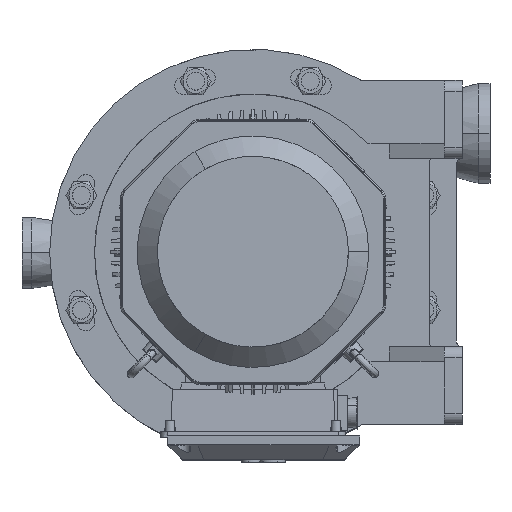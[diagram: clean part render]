
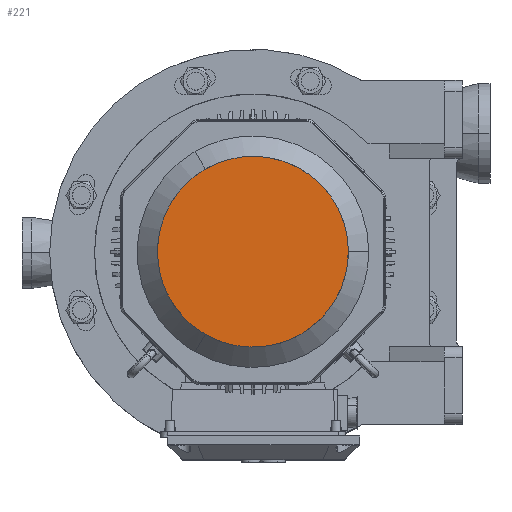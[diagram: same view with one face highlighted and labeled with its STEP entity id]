
A CAD part, top view. The second image highlights one B-rep face of the part: STEP entity #221.
In plain terms, the highlighted planar face has unit normal (0, 0, 1).
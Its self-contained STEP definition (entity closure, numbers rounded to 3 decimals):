
#136=CARTESIAN_POINT('',(-140.373,-138.844,831.254));
#137=DIRECTION('',(0.0,0.0,1.0));
#138=DIRECTION('',(-1.0,0.0,0.0));
#139=AXIS2_PLACEMENT_3D('',#136,#137,#138);
#140=PLANE('',#139);
#141=CARTESIAN_POINT('',(-63.855,110.444,831.254));
#142=VERTEX_POINT('',#141);
#143=CARTESIAN_POINT('',(127.44,0.,831.254));
#144=VERTEX_POINT('',#143);
#145=CARTESIAN_POINT('',(-63.855,110.444,831.254));
#146=CARTESIAN_POINT('',(-57.081,114.355,831.254));
#147=CARTESIAN_POINT('',(-49.767,117.886,831.254));
#148=CARTESIAN_POINT('',(-41.935,120.924,831.254));
#149=CARTESIAN_POINT('',(-24.653,125.986,831.254));
#150=CARTESIAN_POINT('',(-5.811,127.98,831.254));
#151=CARTESIAN_POINT('',(4.284,128.065,831.254));
#152=CARTESIAN_POINT('',(29.077,125.754,831.254));
#153=CARTESIAN_POINT('',(53.38,117.261,831.254));
#154=CARTESIAN_POINT('',(66.914,110.098,831.254));
#155=CARTESIAN_POINT('',(88.002,94.459,831.254));
#156=CARTESIAN_POINT('',(104.137,74.649,831.254));
#157=CARTESIAN_POINT('',(109.926,65.756,831.254));
#158=CARTESIAN_POINT('',(119.051,48.008,831.254));
#159=CARTESIAN_POINT('',(124.409,29.774,831.254));
#160=CARTESIAN_POINT('',(126.136,21.065,831.254));
#161=CARTESIAN_POINT('',(127.191,11.645,831.254));
#162=CARTESIAN_POINT('',(127.419,2.557,831.254));
#163=CARTESIAN_POINT('',(127.433,1.701,831.254));
#164=CARTESIAN_POINT('',(127.44,0.849,831.254));
#165=CARTESIAN_POINT('',(127.44,0.,831.254));
#166=B_SPLINE_CURVE_WITH_KNOTS('',5,(#145,#146,#147,#148,#149,#150,#151,#152,#153,#154,#155,#156,#157,#158,#159,#160,#161,#162,#163,#164,#165),.UNSPECIFIED.,.F.,.U.,(6,3,3,3,3,3,6),(0.0,87.455,182.3,317.715,416.191,507.181,516.673),.UNSPECIFIED.);
#167=EDGE_CURVE('',#142,#144,#166,.T.);
#168=ORIENTED_EDGE('',*,*,#167,.F.);
#169=CARTESIAN_POINT('',(-63.855,-110.444,831.254));
#170=VERTEX_POINT('',#169);
#171=CARTESIAN_POINT('',(-63.855,-110.444,831.254));
#172=CARTESIAN_POINT('',(-70.629,-106.533,831.254));
#173=CARTESIAN_POINT('',(-77.343,-101.964,831.254));
#174=CARTESIAN_POINT('',(-83.89,-96.701,831.254));
#175=CARTESIAN_POINT('',(-96.915,-84.265,831.254));
#176=CARTESIAN_POINT('',(-108.063,-68.945,831.254));
#177=CARTESIAN_POINT('',(-113.185,-60.244,831.254));
#178=CARTESIAN_POINT('',(-123.579,-37.618,831.254));
#179=CARTESIAN_POINT('',(-128.376,-12.324,831.254));
#180=CARTESIAN_POINT('',(-128.939,2.978,831.254));
#181=CARTESIAN_POINT('',(-125.939,29.06,831.254));
#182=CARTESIAN_POINT('',(-116.851,52.939,831.254));
#183=CARTESIAN_POINT('',(-112.044,62.398,831.254));
#184=CARTESIAN_POINT('',(-101.236,79.175,831.254));
#185=CARTESIAN_POINT('',(-88.124,92.932,831.254));
#186=CARTESIAN_POINT('',(-81.445,98.782,831.254));
#187=CARTESIAN_POINT('',(-73.815,104.406,831.254));
#188=CARTESIAN_POINT('',(-66.058,109.147,831.254));
#189=CARTESIAN_POINT('',(-65.325,109.588,831.254));
#190=CARTESIAN_POINT('',(-64.59,110.02,831.254));
#191=CARTESIAN_POINT('',(-63.855,110.444,831.254));
#192=B_SPLINE_CURVE_WITH_KNOTS('',5,(#171,#172,#173,#174,#175,#176,#177,#178,#179,#180,#181,#182,#183,#184,#185,#186,#187,#188,#189,#190,#191),.UNSPECIFIED.,.F.,.U.,(6,3,3,3,3,3,6),(0.0,87.455,182.3,317.715,416.191,507.181,516.673),.UNSPECIFIED.);
#193=EDGE_CURVE('',#170,#142,#192,.T.);
#194=ORIENTED_EDGE('',*,*,#193,.F.);
#195=CARTESIAN_POINT('',(127.44,0.,831.254));
#196=CARTESIAN_POINT('',(127.44,-7.822,831.254));
#197=CARTESIAN_POINT('',(126.84,-15.921,831.254));
#198=CARTESIAN_POINT('',(125.556,-24.223,831.254));
#199=CARTESIAN_POINT('',(121.299,-41.721,831.254));
#200=CARTESIAN_POINT('',(113.605,-59.035,831.254));
#201=CARTESIAN_POINT('',(108.631,-67.821,831.254));
#202=CARTESIAN_POINT('',(94.233,-88.136,831.254));
#203=CARTESIAN_POINT('',(74.726,-104.937,831.254));
#204=CARTESIAN_POINT('',(61.756,-113.076,831.254));
#205=CARTESIAN_POINT('',(37.668,-123.519,831.254));
#206=CARTESIAN_POINT('',(12.445,-127.588,831.254));
#207=CARTESIAN_POINT('',(1.849,-128.155,831.254));
#208=CARTESIAN_POINT('',(-18.084,-127.183,831.254));
#209=CARTESIAN_POINT('',(-36.554,-122.706,831.254));
#210=CARTESIAN_POINT('',(-44.96,-119.847,831.254));
#211=CARTESIAN_POINT('',(-53.646,-116.051,831.254));
#212=CARTESIAN_POINT('',(-61.63,-111.704,831.254));
#213=CARTESIAN_POINT('',(-62.378,-111.289,831.254));
#214=CARTESIAN_POINT('',(-63.12,-110.869,831.254));
#215=CARTESIAN_POINT('',(-63.855,-110.444,831.254));
#216=B_SPLINE_CURVE_WITH_KNOTS('',5,(#195,#196,#197,#198,#199,#200,#201,#202,#203,#204,#205,#206,#207,#208,#209,#210,#211,#212,#213,#214,#215),.UNSPECIFIED.,.F.,.U.,(6,3,3,3,3,3,6),(0.0,87.455,182.3,317.715,416.191,507.181,516.673),.UNSPECIFIED.);
#217=EDGE_CURVE('',#144,#170,#216,.T.);
#218=ORIENTED_EDGE('',*,*,#217,.F.);
#219=EDGE_LOOP('',(#168,#194,#218));
#220=FACE_OUTER_BOUND('',#219,.T.);
#221=ADVANCED_FACE('',(#220),#140,.T.);
